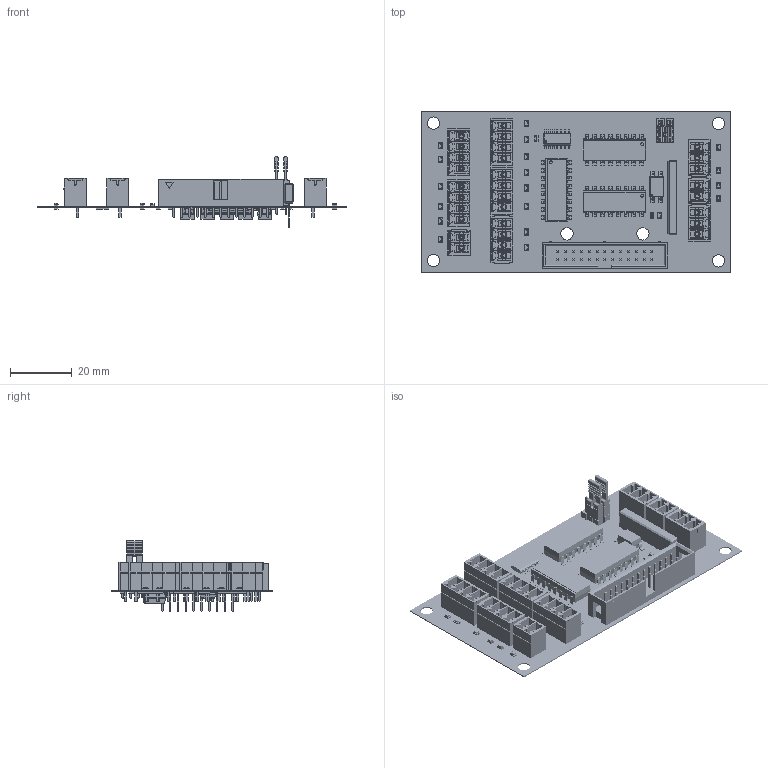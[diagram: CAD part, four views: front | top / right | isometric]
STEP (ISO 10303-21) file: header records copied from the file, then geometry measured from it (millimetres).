
FILE_DESCRIPTION(('Open CASCADE Model'),'2;1');
FILE_NAME('Open CASCADE Shape Model','2022-10-04T08:44:32',('Author'),( 'Open CASCADE'),'Open CASCADE STEP processor 6.8','Open CASCADE 6.8' ,'Unknown');
FILE_SCHEMA(('AUTOMOTIVE_DESIGN { 1 0 10303 214 1 1 1 1 }'));
Length unit declared in the file: millimetre
Products named in the file (152): PCB; Board; Open CASCADE STEP translator 6.8 2.1.1; AC10; R_SMD_0805; User_Library-R_SMD_0805_0805_BODY; User_Library-R_SMD_0805_0805_PAD; User_Library-R_SMD_0805_0805_OPIS; AC9; AC8; AC7; AC6; AC5; AC4; AC3; AC2; AC1; C2; C0805; *; STA471A; tb9; 25209_4; 25209_1; 25209_3; 25209_006; tb8; tb7; tb6; tb5; tb4; 25209; 25209_2; tb3; tb2; tb1; SV1; IDC_Socket_Male_26pin_2_54mm; User_Library-IDC_Socket_Male_26pin_Straight_THT_Goldplated_2.54mm; User_Library-IDC_Socket_Male_26pin_Straight_THT_Goldplated_2.54mm009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
Assembly tree (255 placements, depth 4):
  PCB
    Board
      Open CASCADE STEP translator 6.8 2.1.1
    AC10
      R_SMD_0805
        User_Library-R_SMD_0805_0805_BODY
        User_Library-R_SMD_0805_0805_PAD  x2
        User_Library-R_SMD_0805_0805_OPIS
    AC9
      R_SMD_0805
        User_Library-R_SMD_0805_0805_BODY
        User_Library-R_SMD_0805_0805_PAD  x2
        User_Library-R_SMD_0805_0805_OPIS
    AC8
      R_SMD_0805
        User_Library-R_SMD_0805_0805_BODY
        User_Library-R_SMD_0805_0805_PAD  x2
        User_Library-R_SMD_0805_0805_OPIS
    AC7
      R_SMD_0805
        User_Library-R_SMD_0805_0805_BODY
        User_Library-R_SMD_0805_0805_PAD  x2
        User_Library-R_SMD_0805_0805_OPIS
    AC6
      R_SMD_0805
        User_Library-R_SMD_0805_0805_BODY
        User_Library-R_SMD_0805_0805_PAD  x2
        User_Library-R_SMD_0805_0805_OPIS
    AC5
      R_SMD_0805
        User_Library-R_SMD_0805_0805_BODY
        User_Library-R_SMD_0805_0805_PAD  x2
        User_Library-R_SMD_0805_0805_OPIS
    AC4
      R_SMD_0805
        User_Library-R_SMD_0805_0805_BODY
        User_Library-R_SMD_0805_0805_PAD  x2
        User_Library-R_SMD_0805_0805_OPIS
    AC3
      R_SMD_0805
        User_Library-R_SMD_0805_0805_BODY
        User_Library-R_SMD_0805_0805_PAD  x2
        User_Library-R_SMD_0805_0805_OPIS
    AC2
      R_SMD_0805
        User_Library-R_SMD_0805_0805_BODY
        User_Library-R_SMD_0805_0805_PAD  x2
        User_Library-R_SMD_0805_0805_OPIS
    AC1
      R_SMD_0805
        User_Library-R_SMD_0805_0805_BODY
        User_Library-R_SMD_0805_0805_PAD  x2
        User_Library-R_SMD_0805_0805_OPIS
    C2
      C0805
      C0805
      C0805
      C0805
      C0805
      C0805
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Bounding box: 100.08 x 52.32 x 22.84 mm (x, y, z)
Volume: 9355.7 mm3; surface area: 33927.8 mm2
Topology: 350 solids, 361 shells, 11682 faces, 29939 edges, 19516 vertices
Faces by surface type: plane 7457, bspline 2571, cylinder 1428, sphere 134, torus 58, cone 34
Full cylindrical faces by diameter (mm): 0.813 x10, 0.914 x26, 1.016 x6, 1.4 x30, 4 x6
Entity records: 94574 total; most frequent: CARTESIAN_POINT 16042, ORIENTED_EDGE 12678, DIRECTION 12613, EDGE_CURVE 6371, LINE 5239, VECTOR 5239, VERTEX_POINT 4084, AXIS2_PLACEMENT_3D 3687
